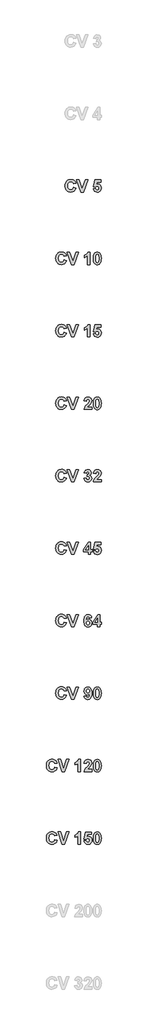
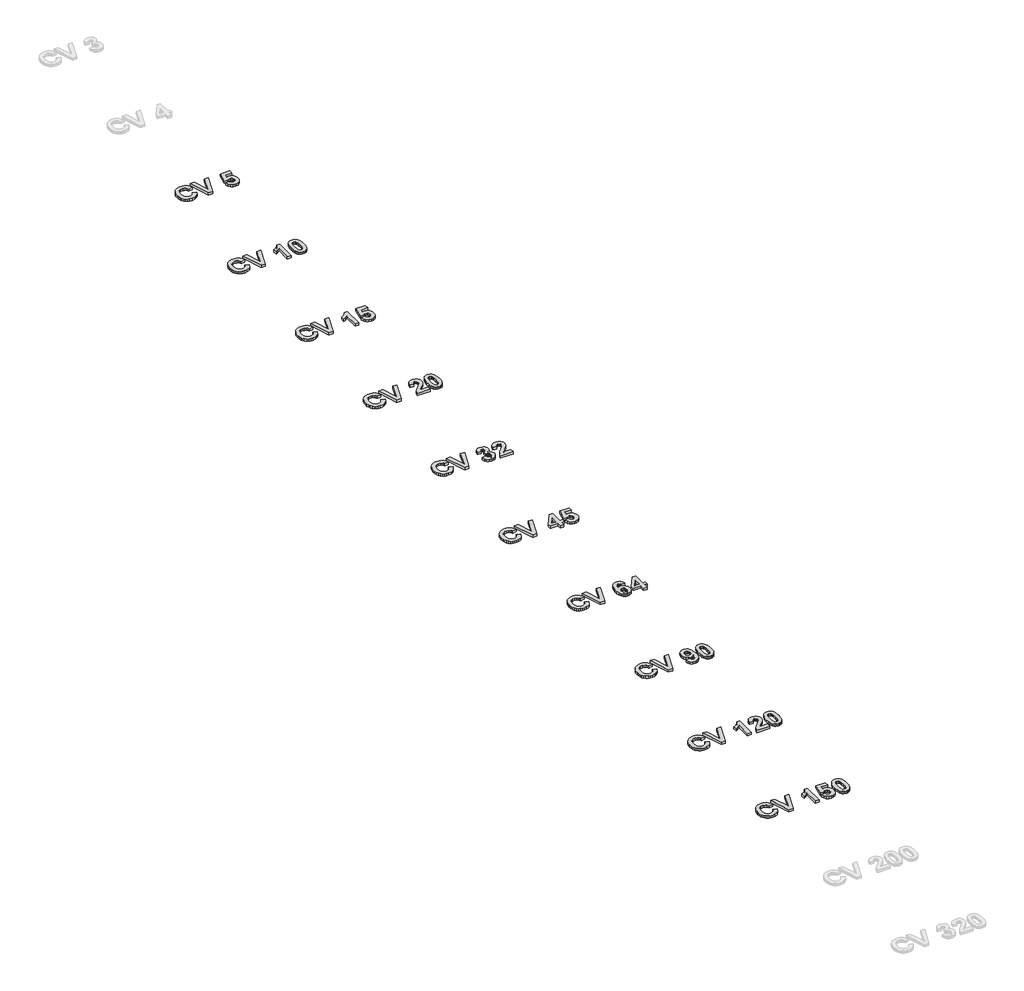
# One storey, part 8 of 9: 10 proxies.
"""IFC4 building model written with IfcOpenShell, lengths in millimetres."""

from ifc_helpers import new_model, si_unit, origin, origin_with_axes, place, context, project, spatial, polyline, outline, extrude, element, save

model = new_model("IFC4")

# Units and contexts
model_context = context("Model", 3, world=origin())
ifc_project = project(units=[si_unit("LENGTHUNIT", "METRE", prefix="MILLI")], contexts=[model_context])

# Site, building, storey
site = spatial("IfcSite", under=ifc_project)
building = spatial("IfcBuilding", under=site)
storey = spatial("IfcBuildingStorey", under=building, Name="Этаж 01", Elevation=0.0)

# Proxies
placement = place(None, origin())
element("IfcBuildingElementProxy", 1, Name="Wellmix_Надпись1", ObjectType="Wellmix_Надпись1", at=placement, inside=storey, context=model_context, shape_type="SweptSolid", body=[
    extrude(outline(polyline([(24277.5138433, 4493.3613491), (24326.0976243, 4477.1667554), (24310.7728574, 4441.3852436), (24300.2519068, 4427.4502227), (24287.8252448, 4416.1523586), (24257.4603817, 4401.18343), (24219.8838636, 4396.1937872), (24195.5563893, 4398.3248628), (24173.4983722, 4404.7180899), (24153.7098123, 4415.3734683), (24136.1907097, 4430.290998), (24121.8543824, 4448.9052917), (24111.6141486, 4470.6509619), (24105.4700083, 4495.5280086), (24103.4219616, 4523.5364318), (24105.4878003, 4553.0710056), (24111.6853163, 4579.1104572), (24122.0145096, 4601.6547866), (24136.4753803, 4620.7039937), (24154.3048529, 4635.8429339), (24174.7398523, 4646.6564626), (24197.7803783, 4653.1445798), (24223.4264309, 4655.3072856), (24245.8521475, 4653.5241406), (24266.0637595, 4648.1747057), (24284.0612669, 4639.258981), (24299.8446697, 4626.7769663), (24315.1694366, 4606.2648687), (24326.0976243, 4578.3829657), (24277.5138433, 4570.2856689), (24270.0728704, 4587.0891413), (24257.3654915, 4599.9230405), (24240.3722387, 4608.0598749), (24220.073644, 4610.772153), (24192.6266544, 4605.8457703), (24170.8888918, 4591.0666221), (24162.627514, 4579.6896828), (24156.7265298, 4565.264396), (24152.0057425, 4527.2687795), (24156.5841946, 4487.1934862), (24162.3072596, 4472.2087426), (24170.3195506, 4460.592601), (24191.3930819, 4445.69484), (24217.9860596, 4440.7289197), (24238.0632439, 4443.8998338), (24255.1513869, 4453.4125761), (24268.5388122, 4469.7415975), (24277.5138433, 4493.3613491)])), origin_with_axes(), (0.0, 0.0, 1.0), 30.0),
    extrude(outline(polyline([(24428.2627366, 4396.1937872), (24342.2922179, 4651.2586371), (24393.5329244, 4651.2586371), (24457.6786977, 4460.9721618), (24522.0142514, 4651.2586371), (24573.0651774, 4651.2586371), (24482.5399293, 4396.1937872), (24428.2627366, 4396.1937872)])), origin_with_axes(), (0.0, 0.0, 1.0), 30.0),
    extrude(outline(polyline([(24690.4759814, 4467.9940363), (24735.0111139, 4473.118107), (24739.1546526, 4458.0463807), (24747.4100997, 4446.4855917), (24758.5122528, 4439.1316014), (24771.1959091, 4436.6802713), (24785.3899011, 4439.2818442), (24797.2274532, 4447.0865629), (24805.2219523, 4460.1260575), (24807.8867854, 4478.431958), (24805.4117327, 4495.5912687), (24797.9865748, 4507.8479192), (24786.5918436, 4515.2019094), (24772.2080712, 4517.6532395), (24753.3881821, 4512.592429), (24736.6558774, 4497.4099975), (24694.5246298, 4503.6727505), (24722.8651687, 4647.2099887), (24844.3246211, 4647.2099887), (24844.3246211, 4598.6262078), (24762.1497103, 4598.6262078), (24752.34439, 4552.2565314), (24767.8273071, 4559.7054119), (24783.658155, 4562.1883721), (24811.7772835, 4556.4396076), (24835.2784223, 4539.1933143), (24851.1725303, 4512.7743019), (24856.4705663, 4479.5073803), (24852.0581722, 4450.5816852), (24838.8209896, 4424.9138868), (24825.6035759, 4410.5775595), (24810.0534449, 4400.3373258), (24792.1705965, 4394.1931855), (24771.9550307, 4392.1451387), (24740.9496588, 4397.2850244), (24716.254485, 4412.7046815), (24699.0398217, 4436.8067915), (24690.4759814, 4467.9940363)])), origin_with_axes(), (0.0, 0.0, 1.0), 30.0),
])
element("IfcBuildingElementProxy", 2, Name="Wellmix_Надпись1", ObjectType="Wellmix_Надпись1", at=placement, inside=storey, context=model_context, shape_type="SweptSolid", body=[
    extrude(outline(polyline([(24083.1787195, 2993.3613491), (24131.7625005, 2977.1667554), (24116.4377336, 2941.3852436), (24105.916783, 2927.4502227), (24093.490121, 2916.1523586), (24063.1252579, 2901.18343), (24025.5487398, 2896.1937872), (24001.2212655, 2898.3248628), (23979.1632484, 2904.7180899), (23959.3746885, 2915.3734683), (23941.8555859, 2930.290998), (23927.5192586, 2948.9052917), (23917.2790248, 2970.6509619), (23911.1348845, 2995.5280086), (23909.0868378, 3023.5364318), (23911.1526765, 3053.0710056), (23917.3501925, 3079.1104572), (23927.6793858, 3101.6547866), (23942.1402565, 3120.7039937), (23959.9697291, 3135.8429339), (23980.4047285, 3146.6564626), (24003.4452545, 3153.1445798), (24029.0913071, 3155.3072856), (24051.5170237, 3153.5241406), (24071.7286357, 3148.1747057), (24089.7261431, 3139.258981), (24105.5095459, 3126.7769663), (24120.8343128, 3106.2648687), (24131.7625005, 3078.3829657), (24083.1787195, 3070.2856689), (24075.7377466, 3087.0891413), (24063.0303677, 3099.9230405), (24046.0371149, 3108.0598749), (24025.7385202, 3110.772153), (23998.2915306, 3105.8457703), (23976.553768, 3091.0666221), (23968.2923902, 3079.6896828), (23962.391406, 3065.264396), (23957.6706187, 3027.2687795), (23962.2490708, 2987.1934862), (23967.9721358, 2972.2087426), (23975.9844268, 2960.592601), (23997.0579581, 2945.69484), (24023.6509358, 2940.7289197), (24043.7281201, 2943.8998338), (24060.8162631, 2953.4125761), (24074.2036884, 2969.7415975), (24083.1787195, 2993.3613491)])), origin_with_axes(), (0.0, 0.0, 1.0), 30.0),
    extrude(outline(polyline([(24233.9276128, 2896.1937872), (24147.9570941, 3151.2586371), (24199.1978006, 3151.2586371), (24263.3435739, 2960.9721618), (24327.6791276, 3151.2586371), (24378.7300536, 3151.2586371), (24288.2048055, 2896.1937872), (24233.9276128, 2896.1937872)])), origin_with_axes(), (0.0, 0.0, 1.0), 30.0),
    extrude(outline(polyline([(24617.60031, 2896.1937872), (24569.016529, 2896.1937872), (24569.016529, 3078.509486), (24540.9606607, 3054.6287864), (24508.2868028, 3037.8964816), (24508.2868028, 3086.4802625), (24527.7551083, 3095.5659989), (24548.8365471, 3110.297702), (24567.2926904, 3129.3152791), (24578.8851095, 3151.2586371), (24617.60031, 3151.2586371), (24617.60031, 2896.1937872)])), origin_with_axes(), (0.0, 0.0, 1.0), 30.0),
    extrude(outline(polyline([(24771.4489497, 3151.2586371), (24788.580584, 3149.6138737), (24803.7274317, 3144.6795835), (24816.8894928, 3136.4557664), (24828.0667673, 3124.9424225), (24838.7221457, 3106.814441), (24846.3331303, 3083.5544815), (24850.899721, 3055.1625437), (24852.4219179, 3021.6386278), (24850.8918135, 2988.146342), (24846.3015002, 2959.7227742), (24838.650978, 2936.3679244), (24827.940247, 2918.0817926), (24816.8183252, 2906.7345066), (24803.6958017, 2898.6293022), (24788.5726765, 2893.7661796), (24771.4489497, 2892.1451387), (24754.1413731, 2893.9243299), (24738.5932189, 2899.2619035), (24724.8044871, 2908.1578595), (24712.7751777, 2920.6121979), (24703.0192793, 2937.633127), (24696.0507805, 2960.2288552), (24691.8696812, 2988.3993825), (24690.4759814, 3022.1447089), (24692.0060858, 3055.4709369), (24696.5963991, 3083.7758919), (24704.2469213, 3107.0595741), (24714.9576523, 3125.3219833), (24726.0795741, 3136.6692693), (24739.2020977, 3144.7744737), (24754.3252228, 3149.6375963), (24771.4489497, 3151.2586371)]), holes=[polyline([(24771.4489497, 3106.7235046), (24755.254356, 3101.3780235), (24748.9283429, 3093.9054205), (24744.2470931, 3082.1785736), (24740.3565951, 3058.0290184), (24739.0597624, 3021.6386278), (24740.2142598, 2985.7305957), (24743.677752, 2963.1546363), (24748.9046203, 2949.9016388), (24755.3492462, 2941.9624923), (24771.4489497, 2936.6802713), (24787.6435433, 2942.0257524), (24793.9695565, 2949.4983554), (24798.6508062, 2961.2252023), (24802.5413043, 2985.2482372), (24803.838137, 3021.6386278), (24802.6836396, 3057.5071223), (24799.2201474, 3080.0909893), (24793.993279, 3093.3835244), (24787.5486531, 3101.3780235), (24771.4489497, 3106.7235046)])]), origin_with_axes(), (0.0, 0.0, 1.0), 30.0),
])
element("IfcBuildingElementProxy", 3, Name="Wellmix_Надпись1", ObjectType="Wellmix_Надпись1", at=placement, inside=storey, context=model_context, shape_type="SweptSolid", body=[
    extrude(outline(polyline([(24083.1787195, 1493.3613491), (24131.7625005, 1477.1667554), (24116.4377336, 1441.3852436), (24105.916783, 1427.4502227), (24093.490121, 1416.1523586), (24063.1252579, 1401.18343), (24025.5487398, 1396.1937872), (24001.2212655, 1398.3248628), (23979.1632484, 1404.7180899), (23959.3746885, 1415.3734683), (23941.8555859, 1430.290998), (23927.5192586, 1448.9052917), (23917.2790248, 1470.6509619), (23911.1348845, 1495.5280086), (23909.0868378, 1523.5364318), (23911.1526765, 1553.0710056), (23917.3501925, 1579.1104572), (23927.6793858, 1601.6547866), (23942.1402565, 1620.7039937), (23959.9697291, 1635.8429339), (23980.4047285, 1646.6564626), (24003.4452545, 1653.1445798), (24029.0913071, 1655.3072856), (24051.5170237, 1653.5241406), (24071.7286357, 1648.1747057), (24089.7261431, 1639.258981), (24105.5095459, 1626.7769663), (24120.8343128, 1606.2648687), (24131.7625005, 1578.3829657), (24083.1787195, 1570.2856689), (24075.7377466, 1587.0891413), (24063.0303677, 1599.9230405), (24046.0371149, 1608.0598749), (24025.7385202, 1610.772153), (23998.2915306, 1605.8457703), (23976.553768, 1591.0666221), (23968.2923902, 1579.6896828), (23962.391406, 1565.264396), (23957.6706187, 1527.2687795), (23962.2490708, 1487.1934862), (23967.9721358, 1472.2087426), (23975.9844268, 1460.592601), (23997.0579581, 1445.69484), (24023.6509358, 1440.7289197), (24043.7281201, 1443.8998338), (24060.8162631, 1453.4125761), (24074.2036884, 1469.7415975), (24083.1787195, 1493.3613491)])), origin_with_axes(), (0.0, 0.0, 1.0), 30.0),
    extrude(outline(polyline([(24233.9276128, 1396.1937872), (24147.9570941, 1651.2586371), (24199.1978006, 1651.2586371), (24263.3435739, 1460.9721618), (24327.6791276, 1651.2586371), (24378.7300536, 1651.2586371), (24288.2048055, 1396.1937872), (24233.9276128, 1396.1937872)])), origin_with_axes(), (0.0, 0.0, 1.0), 30.0),
    extrude(outline(polyline([(24617.60031, 1396.1937872), (24569.016529, 1396.1937872), (24569.016529, 1578.509486), (24540.9606607, 1554.6287864), (24508.2868028, 1537.8964816), (24508.2868028, 1586.4802625), (24527.7551083, 1595.5659989), (24548.8365471, 1610.297702), (24567.2926904, 1629.3152791), (24578.8851095, 1651.2586371), (24617.60031, 1651.2586371), (24617.60031, 1396.1937872)])), origin_with_axes(), (0.0, 0.0, 1.0), 30.0),
    extrude(outline(polyline([(24690.4759814, 1467.9940363), (24735.0111139, 1473.118107), (24739.1546526, 1458.0463807), (24747.4100997, 1446.4855917), (24758.5122528, 1439.1316014), (24771.1959091, 1436.6802713), (24785.3899011, 1439.2818442), (24797.2274532, 1447.0865629), (24805.2219523, 1460.1260575), (24807.8867854, 1478.431958), (24805.4117327, 1495.5912687), (24797.9865748, 1507.8479192), (24786.5918436, 1515.2019094), (24772.2080712, 1517.6532395), (24753.3881821, 1512.592429), (24736.6558774, 1497.4099975), (24694.5246298, 1503.6727505), (24722.8651687, 1647.2099887), (24844.3246211, 1647.2099887), (24844.3246211, 1598.6262078), (24762.1497103, 1598.6262078), (24752.34439, 1552.2565314), (24767.8273071, 1559.7054119), (24783.658155, 1562.1883721), (24811.7772835, 1556.4396076), (24835.2784223, 1539.1933143), (24851.1725303, 1512.7743019), (24856.4705663, 1479.5073803), (24852.0581722, 1450.5816852), (24838.8209896, 1424.9138868), (24825.6035759, 1410.5775595), (24810.0534449, 1400.3373258), (24792.1705965, 1394.1931855), (24771.9550307, 1392.1451387), (24740.9496588, 1397.2850244), (24716.254485, 1412.7046815), (24699.0398217, 1436.8067915), (24690.4759814, 1467.9940363)])), origin_with_axes(), (0.0, 0.0, 1.0), 30.0),
])
element("IfcBuildingElementProxy", 4, Name="Wellmix_Надпись1", ObjectType="Wellmix_Надпись1", at=placement, inside=storey, context=model_context, shape_type="SweptSolid", body=[
    extrude(outline(polyline([(24083.1787195, -6.6386509), (24131.7625005, -22.8332446), (24116.4377336, -58.6147564), (24105.916783, -72.5497773), (24093.490121, -83.8476414), (24063.1252579, -98.81657), (24025.5487398, -103.8062128), (24001.2212655, -101.6751372), (23979.1632484, -95.2819101), (23959.3746885, -84.6265317), (23941.8555859, -69.709002), (23927.5192586, -51.0947083), (23917.2790248, -29.3490381), (23911.1348845, -4.4719914), (23909.0868378, 23.5364318), (23911.1526765, 53.0710056), (23917.3501925, 79.1104572), (23927.6793858, 101.6547866), (23942.1402565, 120.7039937), (23959.9697291, 135.8429339), (23980.4047285, 146.6564626), (24003.4452545, 153.1445798), (24029.0913071, 155.3072856), (24051.5170237, 153.5241406), (24071.7286357, 148.1747057), (24089.7261431, 139.258981), (24105.5095459, 126.7769663), (24120.8343128, 106.2648687), (24131.7625005, 78.3829657), (24083.1787195, 70.2856689), (24075.7377466, 87.0891413), (24063.0303677, 99.9230405), (24046.0371149, 108.0598749), (24025.7385202, 110.772153), (23998.2915306, 105.8457703), (23976.553768, 91.0666221), (23968.2923902, 79.6896828), (23962.391406, 65.264396), (23957.6706187, 27.2687795), (23962.2490708, -12.8065138), (23967.9721358, -27.7912574), (23975.9844268, -39.407399), (23997.0579581, -54.30516), (24023.6509358, -59.2710803), (24043.7281201, -56.1001662), (24060.8162631, -46.5874239), (24074.2036884, -30.2584025), (24083.1787195, -6.6386509)])), origin_with_axes(), (0.0, 0.0, 1.0), 30.0),
    extrude(outline(polyline([(24233.9276128, -103.8062128), (24147.9570941, 151.2586371), (24199.1978006, 151.2586371), (24263.3435739, -39.0278382), (24327.6791276, 151.2586371), (24378.7300536, 151.2586371), (24288.2048055, -103.8062128), (24233.9276128, -103.8062128)])), origin_with_axes(), (0.0, 0.0, 1.0), 30.0),
    extrude(outline(polyline([(24658.0867941, -55.2224319), (24658.0867941, -103.8062128), (24496.1408576, -103.8062128), (24501.3123734, -79.3008194), (24511.6395898, -56.1397038), (24530.8232247, -29.9579169), (24562.5639956, 3.6094904), (24600.1405137, 44.349015), (24607.1623883, 59.0569956), (24609.5030132, 73.5751957), (24607.5340416, 87.7217426), (24601.6271268, 98.1517568), (24592.2567198, 104.5805677), (24579.8972716, 106.7235046), (24567.6248061, 104.6121977), (24558.1357864, 98.2782771), (24551.7465131, 87.0575112), (24548.773287, 70.2856689), (24500.189506, 74.7138781), (24508.7928839, 109.8627886), (24516.4157297, 123.101948), (24526.2526802, 133.4509101), (24550.8766863, 146.8067054), (24580.9726939, 151.2586371), (24613.1088406, 146.2689943), (24637.5272514, 131.3000657), (24652.9469084, 108.9138867), (24658.0867941, 81.6724926), (24652.4566424, 49.5363458), (24634.6172853, 17.5899794), (24604.4105726, -14.2931268), (24576.6710049, -41.9378043), (24567.561546, -55.2224319), (24658.0867941, -55.2224319)])), origin_with_axes(), (0.0, 0.0, 1.0), 30.0),
    extrude(outline(polyline([(24771.4489497, 151.2586371), (24788.580584, 149.6138737), (24803.7274317, 144.6795835), (24816.8894928, 136.4557664), (24828.0667673, 124.9424225), (24838.7221457, 106.814441), (24846.3331303, 83.5544815), (24850.899721, 55.1625437), (24852.4219179, 21.6386278), (24850.8918135, -11.853658), (24846.3015002, -40.2772258), (24838.650978, -63.6320756), (24827.940247, -81.9182074), (24816.8183252, -93.2654934), (24803.6958017, -101.3706978), (24788.5726765, -106.2338204), (24771.4489497, -107.8548613), (24754.1413731, -106.0756701), (24738.5932189, -100.7380965), (24724.8044871, -91.8421405), (24712.7751777, -79.3878021), (24703.0192793, -62.366873), (24696.0507805, -39.7711448), (24691.8696812, -11.6006175), (24690.4759814, 22.1447089), (24692.0060858, 55.4709369), (24696.5963991, 83.7758919), (24704.2469213, 107.0595741), (24714.9576523, 125.3219833), (24726.0795741, 136.6692693), (24739.2020977, 144.7744737), (24754.3252228, 149.6375963), (24771.4489497, 151.2586371)]), holes=[polyline([(24771.4489497, 106.7235046), (24755.254356, 101.3780235), (24748.9283429, 93.9054205), (24744.2470931, 82.1785736), (24740.3565951, 58.0290184), (24739.0597624, 21.6386278), (24740.2142598, -14.2694043), (24743.677752, -36.8453637), (24748.9046203, -50.0983612), (24755.3492462, -58.0375077), (24771.4489497, -63.3197287), (24787.6435433, -57.9742476), (24793.9695565, -50.5016446), (24798.6508062, -38.7747977), (24802.5413043, -14.7517628), (24803.838137, 21.6386278), (24802.6836396, 57.5071223), (24799.2201474, 80.0909893), (24793.993279, 93.3835244), (24787.5486531, 101.3780235), (24771.4489497, 106.7235046)])]), origin_with_axes(), (0.0, 0.0, 1.0), 30.0),
])
element("IfcBuildingElementProxy", 5, Name="Wellmix_Надпись1", ObjectType="Wellmix_Надпись1", at=placement, inside=storey, context=model_context, shape_type="SweptSolid", body=[
    extrude(outline(polyline([(24083.1787195, -1506.6386509), (24131.7625005, -1522.8332446), (24116.4377336, -1558.6147564), (24105.916783, -1572.5497773), (24093.490121, -1583.8476414), (24063.1252579, -1598.81657), (24025.5487398, -1603.8062128), (24001.2212655, -1601.6751372), (23979.1632484, -1595.2819101), (23959.3746885, -1584.6265317), (23941.8555859, -1569.709002), (23927.5192586, -1551.0947083), (23917.2790248, -1529.3490381), (23911.1348845, -1504.4719914), (23909.0868378, -1476.4635682), (23911.1526765, -1446.9289944), (23917.3501925, -1420.8895428), (23927.6793858, -1398.3452134), (23942.1402565, -1379.2960063), (23959.9697291, -1364.1570661), (23980.4047285, -1353.3435374), (24003.4452545, -1346.8554202), (24029.0913071, -1344.6927144), (24051.5170237, -1346.4758594), (24071.7286357, -1351.8252943), (24089.7261431, -1360.741019), (24105.5095459, -1373.2230337), (24120.8343128, -1393.7351313), (24131.7625005, -1421.6170343), (24083.1787195, -1429.7143311), (24075.7377466, -1412.9108587), (24063.0303677, -1400.0769595), (24046.0371149, -1391.9401251), (24025.7385202, -1389.227847), (23998.2915306, -1394.1542297), (23976.553768, -1408.9333779), (23968.2923902, -1420.3103172), (23962.391406, -1434.735604), (23957.6706187, -1472.7312205), (23962.2490708, -1512.8065138), (23967.9721358, -1527.7912574), (23975.9844268, -1539.407399), (23997.0579581, -1554.30516), (24023.6509358, -1559.2710803), (24043.7281201, -1556.1001662), (24060.8162631, -1546.5874239), (24074.2036884, -1530.2584025), (24083.1787195, -1506.6386509)])), origin_with_axes(), (0.0, 0.0, 1.0), 30.0),
    extrude(outline(polyline([(24233.9276128, -1603.8062128), (24147.9570941, -1348.7413629), (24199.1978006, -1348.7413629), (24263.3435739, -1539.0278382), (24327.6791276, -1348.7413629), (24378.7300536, -1348.7413629), (24288.2048055, -1603.8062128), (24233.9276128, -1603.8062128)])), origin_with_axes(), (0.0, 0.0, 1.0), 30.0),
    extrude(outline(polyline([(24496.1408576, -1532.5120447), (24544.7246386, -1526.881893), (24548.4728013, -1542.5071455), (24555.6686413, -1553.9572293), (24565.5214068, -1560.9791039), (24577.2403461, -1563.3197287), (24589.8132972, -1560.6390806), (24600.2037738, -1552.5971364), (24607.1782033, -1540.0162778), (24609.5030132, -1523.7188864), (24607.3758912, -1508.2992294), (24600.9945255, -1496.4537698), (24591.5450433, -1488.9099991), (24580.2135723, -1486.3954089), (24560.9192322, -1490.0012364), (24565.157661, -1449.9575732), (24578.9879072, -1448.2179196), (24589.1016208, -1441.9867966), (24595.2932061, -1432.1182161), (24597.3570679, -1419.4661898), (24595.8151022, -1408.719875), (24591.1892051, -1400.3932602), (24584.0012727, -1395.0556866), (24574.773201, -1393.2764954), (24565.386979, -1395.3403572), (24557.471555, -1401.5319425), (24551.7069756, -1411.6931012), (24548.773287, -1425.6656827), (24500.189506, -1418.3907676), (24505.7484901, -1396.6530049), (24513.5690238, -1379.7704573), (24524.2916161, -1366.857483), (24538.5567757, -1357.0284401), (24555.5500285, -1350.8131322), (24574.4569003, -1348.7413629), (24605.106434, -1354.4822198), (24617.8928881, -1361.6582909), (24628.9871336, -1371.7047906), (24641.7024201, -1391.7266222), (24645.9408489, -1414.2155989), (24643.6674379, -1430.1611058), (24636.847205, -1444.4064966), (24625.4801501, -1456.9517714), (24609.5662733, -1467.7969302), (24629.4299546, -1475.3486084), (24644.8654266, -1488.6411435), (24654.7814522, -1506.5042232), (24658.0867941, -1527.7675348), (24652.2273244, -1558.5356813), (24634.6489154, -1584.4169826), (24622.2123689, -1594.6710545), (24608.3406082, -1601.9953916), (24576.2914441, -1607.8548613), (24546.0293788, -1602.6438079), (24521.4132801, -1587.0106479), (24504.1986168, -1562.9638905), (24496.1408576, -1532.5120447)])), origin_with_axes(), (0.0, 0.0, 1.0), 30.0),
    extrude(outline(polyline([(24852.4219179, -1555.2224319), (24852.4219179, -1603.8062128), (24690.4759814, -1603.8062128), (24695.6474972, -1579.3008194), (24705.9747136, -1556.1397038), (24725.1583485, -1529.9579169), (24756.8991194, -1496.3905096), (24794.4756375, -1455.650985), (24801.4975121, -1440.9430044), (24803.838137, -1426.4248043), (24801.8691654, -1412.2782574), (24795.9622506, -1401.8482432), (24786.5918436, -1395.4194323), (24774.2323954, -1393.2764954), (24761.9599299, -1395.3878023), (24752.4709102, -1401.7217229), (24746.0816369, -1412.9424888), (24743.1084108, -1429.7143311), (24694.5246298, -1425.2861219), (24703.1280077, -1390.1372114), (24710.7508535, -1376.898052), (24720.587804, -1366.5490899), (24745.2118101, -1353.1932946), (24775.3078177, -1348.7413629), (24807.4439644, -1353.7310057), (24831.8623752, -1368.6999343), (24847.2820322, -1391.0861133), (24852.4219179, -1418.3275074), (24846.7917662, -1450.4636542), (24828.9524091, -1482.4100206), (24798.7456964, -1514.2931268), (24771.0061287, -1541.9378043), (24761.8966698, -1555.2224319), (24852.4219179, -1555.2224319)])), origin_with_axes(), (0.0, 0.0, 1.0), 30.0),
])
element("IfcBuildingElementProxy", 6, Name="Wellmix_Надпись1", ObjectType="Wellmix_Надпись1", at=placement, inside=storey, context=model_context, shape_type="SweptSolid", body=[
    extrude(outline(polyline([(24083.1787195, -3006.6386509), (24131.7625005, -3022.8332446), (24116.4377336, -3058.6147564), (24105.916783, -3072.5497773), (24093.490121, -3083.8476414), (24063.1252579, -3098.81657), (24025.5487398, -3103.8062128), (24001.2212655, -3101.6751372), (23979.1632484, -3095.2819101), (23959.3746885, -3084.6265317), (23941.8555859, -3069.709002), (23927.5192586, -3051.0947083), (23917.2790248, -3029.3490381), (23911.1348845, -3004.4719914), (23909.0868378, -2976.4635682), (23911.1526765, -2946.9289944), (23917.3501925, -2920.8895428), (23927.6793858, -2898.3452134), (23942.1402565, -2879.2960063), (23959.9697291, -2864.1570661), (23980.4047285, -2853.3435374), (24003.4452545, -2846.8554202), (24029.0913071, -2844.6927144), (24051.5170237, -2846.4758594), (24071.7286357, -2851.8252943), (24089.7261431, -2860.741019), (24105.5095459, -2873.2230337), (24120.8343128, -2893.7351313), (24131.7625005, -2921.6170343), (24083.1787195, -2929.7143311), (24075.7377466, -2912.9108587), (24063.0303677, -2900.0769595), (24046.0371149, -2891.9401251), (24025.7385202, -2889.227847), (23998.2915306, -2894.1542297), (23976.553768, -2908.9333779), (23968.2923902, -2920.3103172), (23962.391406, -2934.735604), (23957.6706187, -2972.7312205), (23962.2490708, -3012.8065138), (23967.9721358, -3027.7912574), (23975.9844268, -3039.407399), (23997.0579581, -3054.30516), (24023.6509358, -3059.2710803), (24043.7281201, -3056.1001662), (24060.8162631, -3046.5874239), (24074.2036884, -3030.2584025), (24083.1787195, -3006.6386509)])), origin_with_axes(), (0.0, 0.0, 1.0), 30.0),
    extrude(outline(polyline([(24233.9276128, -3103.8062128), (24147.9570941, -2848.7413629), (24199.1978006, -2848.7413629), (24263.3435739, -3039.0278382), (24327.6791276, -2848.7413629), (24378.7300536, -2848.7413629), (24288.2048055, -3103.8062128), (24233.9276128, -3103.8062128)])), origin_with_axes(), (0.0, 0.0, 1.0), 30.0),
    extrude(outline(polyline([(24585.2111227, -3103.8062128), (24585.2111227, -3051.1737835), (24488.0435608, -3051.1737835), (24488.0435608, -3010.8770797), (24591.6636561, -2852.7900113), (24633.7949036, -2852.7900113), (24633.7949036, -3010.6872994), (24666.1840909, -3010.6872994), (24666.1840909, -3051.1737835), (24633.7949036, -3051.1737835), (24633.7949036, -3103.8062128), (24585.2111227, -3103.8062128)]), holes=[polyline([(24585.2111227, -3010.6872994), (24585.2111227, -2927.8165272), (24530.9339299, -3010.6872994), (24585.2111227, -3010.6872994)])]), origin_with_axes(), (0.0, 0.0, 1.0), 30.0),
    extrude(outline(polyline([(24690.4759814, -3032.0059637), (24735.0111139, -3026.881893), (24739.1546526, -3041.9536193), (24747.4100997, -3053.5144083), (24758.5122528, -3060.8683986), (24771.1959091, -3063.3197287), (24785.3899011, -3060.7181558), (24797.2274532, -3052.9134371), (24805.2219523, -3039.8739425), (24807.8867854, -3021.568042), (24805.4117327, -3004.4087313), (24797.9865748, -2992.1520808), (24786.5918436, -2984.7980906), (24772.2080712, -2982.3467605), (24753.3881821, -2987.407571), (24736.6558774, -3002.5900025), (24694.5246298, -2996.3272495), (24722.8651687, -2852.7900113), (24844.3246211, -2852.7900113), (24844.3246211, -2901.3737922), (24762.1497103, -2901.3737922), (24752.34439, -2947.7434686), (24767.8273071, -2940.2945881), (24783.658155, -2937.8116279), (24811.7772835, -2943.5603924), (24835.2784223, -2960.8066857), (24851.1725303, -2987.2256981), (24856.4705663, -3020.4926197), (24852.0581722, -3049.4183148), (24838.8209896, -3075.0861132), (24825.6035759, -3089.4224405), (24810.0534449, -3099.6626742), (24792.1705965, -3105.8068145), (24771.9550307, -3107.8548613), (24740.9496588, -3102.7149756), (24716.254485, -3087.2953185), (24699.0398217, -3063.1932085), (24690.4759814, -3032.0059637)])), origin_with_axes(), (0.0, 0.0, 1.0), 30.0),
])
element("IfcBuildingElementProxy", 7, Name="Wellmix_Надпись1", ObjectType="Wellmix_Надпись1", at=placement, inside=storey, context=model_context, shape_type="SweptSolid", body=[
    extrude(outline(polyline([(24083.1787195, -4506.6386509), (24131.7625005, -4522.8332446), (24116.4377336, -4558.6147564), (24105.916783, -4572.5497773), (24093.490121, -4583.8476414), (24063.1252579, -4598.81657), (24025.5487398, -4603.8062128), (24001.2212655, -4601.6751372), (23979.1632484, -4595.2819101), (23959.3746885, -4584.6265317), (23941.8555859, -4569.709002), (23927.5192586, -4551.0947083), (23917.2790248, -4529.3490381), (23911.1348845, -4504.4719914), (23909.0868378, -4476.4635682), (23911.1526765, -4446.9289944), (23917.3501925, -4420.8895428), (23927.6793858, -4398.3452134), (23942.1402565, -4379.2960063), (23959.9697291, -4364.1570661), (23980.4047285, -4353.3435374), (24003.4452545, -4346.8554202), (24029.0913071, -4344.6927144), (24051.5170237, -4346.4758594), (24071.7286357, -4351.8252943), (24089.7261431, -4360.741019), (24105.5095459, -4373.2230337), (24120.8343128, -4393.7351313), (24131.7625005, -4421.6170343), (24083.1787195, -4429.7143311), (24075.7377466, -4412.9108587), (24063.0303677, -4400.0769595), (24046.0371149, -4391.9401251), (24025.7385202, -4389.227847), (23998.2915306, -4394.1542297), (23976.553768, -4408.9333779), (23968.2923902, -4420.3103172), (23962.391406, -4434.735604), (23957.6706187, -4472.7312205), (23962.2490708, -4512.8065138), (23967.9721358, -4527.7912574), (23975.9844268, -4539.407399), (23997.0579581, -4554.30516), (24023.6509358, -4559.2710803), (24043.7281201, -4556.1001662), (24060.8162631, -4546.5874239), (24074.2036884, -4530.2584025), (24083.1787195, -4506.6386509)])), origin_with_axes(), (0.0, 0.0, 1.0), 30.0),
    extrude(outline(polyline([(24233.9276128, -4603.8062128), (24147.9570941, -4348.7413629), (24199.1978006, -4348.7413629), (24263.3435739, -4539.0278382), (24327.6791276, -4348.7413629), (24378.7300536, -4348.7413629), (24288.2048055, -4603.8062128), (24233.9276128, -4603.8062128)])), origin_with_axes(), (0.0, 0.0, 1.0), 30.0),
    extrude(outline(polyline([(24654.0381457, -4416.4297035), (24605.4543647, -4421.6170343), (24602.4811386, -4409.0203606), (24596.8509869, -4400.2034798), (24588.8485802, -4395.0082415), (24578.7585893, -4393.2764954), (24565.157661, -4396.6371899), (24553.8340975, -4406.7192733), (24545.5312052, -4427.5555791), (24540.9922908, -4463.1789406), (24561.0141224, -4447.1899424), (24585.4009031, -4441.8602763), (24613.2274534, -4447.5536882), (24636.7364997, -4464.6339237), (24652.7492205, -4490.7129129), (24658.0867941, -4523.4025858), (24652.6306078, -4557.8398198), (24645.8103748, -4572.2295229), (24636.2620488, -4584.7332832), (24624.5707857, -4594.8489736), (24611.3217419, -4602.0744667), (24580.1503122, -4607.8548613), (24562.6193482, -4605.9886874), (24546.7173327, -4600.3901657), (24532.4442655, -4591.0592964), (24519.8001468, -4577.9960792), (24509.4492078, -4560.682572), (24502.0556799, -4538.6008324), (24497.6195632, -4511.7508603), (24496.1408576, -4480.1326559), (24497.6848002, -4447.6802084), (24502.3166279, -4420.0987911), (24510.0363409, -4397.3884039), (24520.8439389, -4379.5490469), (24534.1186821, -4366.0706851), (24549.2398304, -4356.4432839), (24566.2073838, -4350.6668431), (24585.0213423, -4348.7413629), (24610.3412099, -4353.0746819), (24630.8849376, -4366.0746389), (24645.7510685, -4387.330043), (24654.0381457, -4416.4297035)]), holes=[polyline([(24544.7246386, -4522.3271635), (24547.349934, -4539.7474222), (24555.2258204, -4552.6603966), (24566.4703087, -4560.6548957), (24579.2014102, -4563.3197287), (24591.0943149, -4561.1372542), (24600.8363751, -4554.5898306), (24607.3363537, -4543.0606716), (24609.5030132, -4525.932991), (24607.1702958, -4508.1806166), (24600.1721438, -4495.9160587), (24589.6788695, -4488.7755713), (24576.8607853, -4486.3954089), (24564.422262, -4488.6727736), (24554.0555079, -4495.5048678), (24547.0573559, -4506.7651712), (24544.7246386, -4522.3271635)])]), origin_with_axes(), (0.0, 0.0, 1.0), 30.0),
    extrude(outline(polyline([(24779.5462465, -4603.8062128), (24779.5462465, -4551.1737835), (24682.3786846, -4551.1737835), (24682.3786846, -4510.8770797), (24785.9987799, -4352.7900113), (24828.1300274, -4352.7900113), (24828.1300274, -4510.6872994), (24860.5192147, -4510.6872994), (24860.5192147, -4551.1737835), (24828.1300274, -4551.1737835), (24828.1300274, -4603.8062128), (24779.5462465, -4603.8062128)]), holes=[polyline([(24779.5462465, -4510.6872994), (24779.5462465, -4427.8165272), (24725.2690537, -4510.6872994), (24779.5462465, -4510.6872994)])]), origin_with_axes(), (0.0, 0.0, 1.0), 30.0),
])
element("IfcBuildingElementProxy", 8, Name="Wellmix_Надпись1", ObjectType="Wellmix_Надпись1", at=placement, inside=storey, context=model_context, shape_type="SweptSolid", body=[
    extrude(outline(polyline([(24083.1787195, -6006.6386509), (24131.7625005, -6022.8332446), (24116.4377336, -6058.6147564), (24105.916783, -6072.5497773), (24093.490121, -6083.8476414), (24063.1252579, -6098.81657), (24025.5487398, -6103.8062128), (24001.2212655, -6101.6751372), (23979.1632484, -6095.2819101), (23959.3746885, -6084.6265317), (23941.8555859, -6069.709002), (23927.5192586, -6051.0947083), (23917.2790248, -6029.3490381), (23911.1348845, -6004.4719914), (23909.0868378, -5976.4635682), (23911.1526765, -5946.9289944), (23917.3501925, -5920.8895428), (23927.6793858, -5898.3452134), (23942.1402565, -5879.2960063), (23959.9697291, -5864.1570661), (23980.4047285, -5853.3435374), (24003.4452545, -5846.8554202), (24029.0913071, -5844.6927144), (24051.5170237, -5846.4758594), (24071.7286357, -5851.8252943), (24089.7261431, -5860.741019), (24105.5095459, -5873.2230337), (24120.8343128, -5893.7351313), (24131.7625005, -5921.6170343), (24083.1787195, -5929.7143311), (24075.7377466, -5912.9108587), (24063.0303677, -5900.0769595), (24046.0371149, -5891.9401251), (24025.7385202, -5889.227847), (23998.2915306, -5894.1542297), (23976.553768, -5908.9333779), (23968.2923902, -5920.3103172), (23962.391406, -5934.735604), (23957.6706187, -5972.7312205), (23962.2490708, -6012.8065138), (23967.9721358, -6027.7912574), (23975.9844268, -6039.407399), (23997.0579581, -6054.30516), (24023.6509358, -6059.2710803), (24043.7281201, -6056.1001662), (24060.8162631, -6046.5874239), (24074.2036884, -6030.2584025), (24083.1787195, -6006.6386509)])), origin_with_axes(), (0.0, 0.0, 1.0), 30.0),
    extrude(outline(polyline([(24233.9276128, -6103.8062128), (24147.9570941, -5848.7413629), (24199.1978006, -5848.7413629), (24263.3435739, -6039.0278382), (24327.6791276, -5848.7413629), (24378.7300536, -5848.7413629), (24288.2048055, -6103.8062128), (24233.9276128, -6103.8062128)])), origin_with_axes(), (0.0, 0.0, 1.0), 30.0),
    extrude(outline(polyline([(24500.189506, -6040.1665206), (24548.773287, -6034.9791898), (24551.7544207, -6047.5363259), (24557.4082949, -6056.3611143), (24565.5134993, -6061.5800751), (24575.8486232, -6063.3197287), (24589.196511, -6059.9590342), (24600.3935542, -6049.8769508), (24608.6964465, -6029.0880901), (24613.3618812, -5993.6070639), (24593.071194, -6009.4537268), (24568.2574075, -6014.7359478), (24540.857863, -6009.0662585), (24517.491152, -5992.0571906), (24501.4784312, -5965.9544789), (24496.1408576, -5933.0038579), (24501.6207665, -5898.7880343), (24508.4706526, -5884.4378689), (24518.0604932, -5871.926201), (24529.7695481, -5861.7828343), (24542.9770774, -5854.5375724), (24573.8875592, -5848.7413629), (24591.501552, -5850.6055599), (24607.4628739, -5856.1981508), (24621.7715249, -5865.5191358), (24634.4275049, -5878.5685148), (24644.778444, -5895.8879527), (24652.1719718, -5918.0191143), (24656.6080885, -5944.9619997), (24658.0867941, -5976.7166088), (24656.5408746, -6009.0840504), (24651.9031163, -6036.6002307), (24644.1735189, -6059.2651497), (24633.3520827, -6077.0788073), (24620.0516401, -6090.5433309), (24604.8850236, -6100.1608478), (24587.8522332, -6105.9313579), (24568.9532689, -6107.8548613), (24543.1115052, -6103.6164324), (24522.7733729, -6090.901146), (24508.3342479, -6069.7406321), (24500.189506, -6040.1665206)]), holes=[polyline([(24609.5030132, -5934.1425403), (24606.8935327, -5916.896247), (24599.0650915, -5903.9990877), (24587.8206031, -5895.9571435), (24574.9629814, -5893.2764954), (24563.0384466, -5895.474785), (24553.3280164, -5902.0696537), (24546.875483, -5913.6620727), (24544.7246386, -5930.8530135), (24547.0652634, -5948.4630526), (24554.087138, -5960.6801654), (24564.6041349, -5967.8206528), (24577.4301265, -5970.2008152), (24589.9002799, -5967.915543), (24600.2354039, -5961.0597262), (24607.1861108, -5949.7598853), (24609.5030132, -5934.1425403)])]), origin_with_axes(), (0.0, 0.0, 1.0), 30.0),
    extrude(outline(polyline([(24771.4489497, -5848.7413629), (24788.580584, -5850.3861263), (24803.7274317, -5855.3204165), (24816.8894928, -5863.5442336), (24828.0667673, -5875.0575775), (24838.7221457, -5893.185559), (24846.3331303, -5916.4455185), (24850.899721, -5944.8374563), (24852.4219179, -5978.3613722), (24850.8918135, -6011.853658), (24846.3015002, -6040.2772258), (24838.650978, -6063.6320756), (24827.940247, -6081.9182074), (24816.8183252, -6093.2654934), (24803.6958017, -6101.3706978), (24788.5726765, -6106.2338204), (24771.4489497, -6107.8548613), (24754.1413731, -6106.0756701), (24738.5932189, -6100.7380965), (24724.8044871, -6091.8421405), (24712.7751777, -6079.3878021), (24703.0192793, -6062.366873), (24696.0507805, -6039.7711448), (24691.8696812, -6011.6006175), (24690.4759814, -5977.8552911), (24692.0060858, -5944.5290631), (24696.5963991, -5916.2241081), (24704.2469213, -5892.9404259), (24714.9576523, -5874.6780167), (24726.0795741, -5863.3307307), (24739.2020977, -5855.2255263), (24754.3252228, -5850.3624037), (24771.4489497, -5848.7413629)]), holes=[polyline([(24771.4489497, -5893.2764954), (24755.254356, -5898.6219765), (24748.9283429, -5906.0945795), (24744.2470931, -5917.8214264), (24740.3565951, -5941.9709816), (24739.0597624, -5978.3613722), (24740.2142598, -6014.2694043), (24743.677752, -6036.8453637), (24748.9046203, -6050.0983612), (24755.3492462, -6058.0375077), (24771.4489497, -6063.3197287), (24787.6435433, -6057.9742476), (24793.9695565, -6050.5016446), (24798.6508062, -6038.7747977), (24802.5413043, -6014.7517628), (24803.838137, -5978.3613722), (24802.6836396, -5942.4928777), (24799.2201474, -5919.9090107), (24793.993279, -5906.6164756), (24787.5486531, -5898.6219765), (24771.4489497, -5893.2764954)])]), origin_with_axes(), (0.0, 0.0, 1.0), 30.0),
])
element("IfcBuildingElementProxy", 9, Name="Wellmix_Надпись1", ObjectType="Wellmix_Надпись1", at=placement, inside=storey, context=model_context, shape_type="SweptSolid", body=[
    extrude(outline(polyline([(23888.8435957, -7506.6386509), (23937.4273767, -7522.8332446), (23922.1026098, -7558.6147564), (23911.5816592, -7572.5497773), (23899.1549972, -7583.8476414), (23868.7901341, -7598.81657), (23831.213616, -7603.8062128), (23806.8861417, -7601.6751372), (23784.8281246, -7595.2819101), (23765.0395647, -7584.6265317), (23747.5204621, -7569.709002), (23733.1841348, -7551.0947083), (23722.943901, -7529.3490381), (23716.7997607, -7504.4719914), (23714.751714, -7476.4635682), (23716.8175527, -7446.9289944), (23723.0150687, -7420.8895428), (23733.344262, -7398.3452134), (23747.8051327, -7379.2960063), (23765.6346053, -7364.1570661), (23786.0696047, -7353.3435374), (23809.1101307, -7346.8554202), (23834.7561833, -7344.6927144), (23857.1818999, -7346.4758594), (23877.3935119, -7351.8252943), (23895.3910193, -7360.741019), (23911.1744221, -7373.2230337), (23926.499189, -7393.7351313), (23937.4273767, -7421.6170343), (23888.8435957, -7429.7143311), (23881.4026228, -7412.9108587), (23868.6952439, -7400.0769595), (23851.7019911, -7391.9401251), (23831.4033964, -7389.227847), (23803.9564068, -7394.1542297), (23782.2186442, -7408.9333779), (23773.9572664, -7420.3103172), (23768.0562822, -7434.735604), (23763.3354949, -7472.7312205), (23767.913947, -7512.8065138), (23773.637012, -7527.7912574), (23781.649303, -7539.407399), (23802.7228343, -7554.30516), (23829.315812, -7559.2710803), (23849.3929963, -7556.1001662), (23866.4811393, -7546.5874239), (23879.8685646, -7530.2584025), (23888.8435957, -7506.6386509)])), origin_with_axes(), (0.0, 0.0, 1.0), 30.0),
    extrude(outline(polyline([(24039.592489, -7603.8062128), (23953.6219703, -7348.7413629), (24004.8626768, -7348.7413629), (24069.0084501, -7539.0278382), (24133.3440038, -7348.7413629), (24184.3949298, -7348.7413629), (24093.8696817, -7603.8062128), (24039.592489, -7603.8062128)])), origin_with_axes(), (0.0, 0.0, 1.0), 30.0),
    extrude(outline(polyline([(24423.2651862, -7603.8062128), (24374.6814052, -7603.8062128), (24374.6814052, -7421.490514), (24346.6255369, -7445.3712136), (24313.951679, -7462.1035184), (24313.951679, -7413.5197375), (24333.4199845, -7404.4340011), (24354.5014233, -7389.702298), (24372.9575666, -7370.6847209), (24384.5499857, -7348.7413629), (24423.2651862, -7348.7413629), (24423.2651862, -7603.8062128)])), origin_with_axes(), (0.0, 0.0, 1.0), 30.0),
    extrude(outline(polyline([(24658.0867941, -7555.2224319), (24658.0867941, -7603.8062128), (24496.1408576, -7603.8062128), (24501.3123734, -7579.3008194), (24511.6395898, -7556.1397038), (24530.8232247, -7529.9579169), (24562.5639956, -7496.3905096), (24600.1405137, -7455.650985), (24607.1623883, -7440.9430044), (24609.5030132, -7426.4248043), (24607.5340416, -7412.2782574), (24601.6271268, -7401.8482432), (24592.2567198, -7395.4194323), (24579.8972716, -7393.2764954), (24567.6248061, -7395.3878023), (24558.1357864, -7401.7217229), (24551.7465131, -7412.9424888), (24548.773287, -7429.7143311), (24500.189506, -7425.2861219), (24508.7928839, -7390.1372114), (24516.4157297, -7376.898052), (24526.2526802, -7366.5490899), (24550.8766863, -7353.1932946), (24580.9726939, -7348.7413629), (24613.1088406, -7353.7310057), (24637.5272514, -7368.6999343), (24652.9469084, -7391.0861133), (24658.0867941, -7418.3275074), (24652.4566424, -7450.4636542), (24634.6172853, -7482.4100206), (24604.4105726, -7514.2931268), (24576.6710049, -7541.9378043), (24567.561546, -7555.2224319), (24658.0867941, -7555.2224319)])), origin_with_axes(), (0.0, 0.0, 1.0), 30.0),
    extrude(outline(polyline([(24771.4489497, -7348.7413629), (24788.580584, -7350.3861263), (24803.7274317, -7355.3204165), (24816.8894928, -7363.5442336), (24828.0667673, -7375.0575775), (24838.7221457, -7393.185559), (24846.3331303, -7416.4455185), (24850.899721, -7444.8374563), (24852.4219179, -7478.3613722), (24850.8918135, -7511.853658), (24846.3015002, -7540.2772258), (24838.650978, -7563.6320756), (24827.940247, -7581.9182074), (24816.8183252, -7593.2654934), (24803.6958017, -7601.3706978), (24788.5726765, -7606.2338204), (24771.4489497, -7607.8548613), (24754.1413731, -7606.0756701), (24738.5932189, -7600.7380965), (24724.8044871, -7591.8421405), (24712.7751777, -7579.3878021), (24703.0192793, -7562.366873), (24696.0507805, -7539.7711448), (24691.8696812, -7511.6006175), (24690.4759814, -7477.8552911), (24692.0060858, -7444.5290631), (24696.5963991, -7416.2241081), (24704.2469213, -7392.9404259), (24714.9576523, -7374.6780167), (24726.0795741, -7363.3307307), (24739.2020977, -7355.2255263), (24754.3252228, -7350.3624037), (24771.4489497, -7348.7413629)]), holes=[polyline([(24771.4489497, -7393.2764954), (24755.254356, -7398.6219765), (24748.9283429, -7406.0945795), (24744.2470931, -7417.8214264), (24740.3565951, -7441.9709816), (24739.0597624, -7478.3613722), (24740.2142598, -7514.2694043), (24743.677752, -7536.8453637), (24748.9046203, -7550.0983612), (24755.3492462, -7558.0375077), (24771.4489497, -7563.3197287), (24787.6435433, -7557.9742476), (24793.9695565, -7550.5016446), (24798.6508062, -7538.7747977), (24802.5413043, -7514.7517628), (24803.838137, -7478.3613722), (24802.6836396, -7442.4928777), (24799.2201474, -7419.9090107), (24793.993279, -7406.6164756), (24787.5486531, -7398.6219765), (24771.4489497, -7393.2764954)])]), origin_with_axes(), (0.0, 0.0, 1.0), 30.0),
])
element("IfcBuildingElementProxy", 10, Name="Wellmix_Надпись1", ObjectType="Wellmix_Надпись1", at=placement, inside=storey, context=model_context, shape_type="SweptSolid", body=[
    extrude(outline(polyline([(23888.8435957, -9006.6386509), (23937.4273767, -9022.8332446), (23922.1026098, -9058.6147564), (23911.5816592, -9072.5497773), (23899.1549972, -9083.8476414), (23868.7901341, -9098.81657), (23831.213616, -9103.8062128), (23806.8861417, -9101.6751372), (23784.8281246, -9095.2819101), (23765.0395647, -9084.6265317), (23747.5204621, -9069.709002), (23733.1841348, -9051.0947083), (23722.943901, -9029.3490381), (23716.7997607, -9004.4719914), (23714.751714, -8976.4635682), (23716.8175527, -8946.9289944), (23723.0150687, -8920.8895428), (23733.344262, -8898.3452134), (23747.8051327, -8879.2960063), (23765.6346053, -8864.1570661), (23786.0696047, -8853.3435374), (23809.1101307, -8846.8554202), (23834.7561833, -8844.6927144), (23857.1818999, -8846.4758594), (23877.3935119, -8851.8252943), (23895.3910193, -8860.741019), (23911.1744221, -8873.2230337), (23926.499189, -8893.7351313), (23937.4273767, -8921.6170343), (23888.8435957, -8929.7143311), (23881.4026228, -8912.9108587), (23868.6952439, -8900.0769595), (23851.7019911, -8891.9401251), (23831.4033964, -8889.227847), (23803.9564068, -8894.1542297), (23782.2186442, -8908.9333779), (23773.9572664, -8920.3103172), (23768.0562822, -8934.735604), (23763.3354949, -8972.7312205), (23767.913947, -9012.8065138), (23773.637012, -9027.7912574), (23781.649303, -9039.407399), (23802.7228343, -9054.30516), (23829.315812, -9059.2710803), (23849.3929963, -9056.1001662), (23866.4811393, -9046.5874239), (23879.8685646, -9030.2584025), (23888.8435957, -9006.6386509)])), origin_with_axes(), (0.0, 0.0, 1.0), 30.0),
    extrude(outline(polyline([(24039.592489, -9103.8062128), (23953.6219703, -8848.7413629), (24004.8626768, -8848.7413629), (24069.0084501, -9039.0278382), (24133.3440038, -8848.7413629), (24184.3949298, -8848.7413629), (24093.8696817, -9103.8062128), (24039.592489, -9103.8062128)])), origin_with_axes(), (0.0, 0.0, 1.0), 30.0),
    extrude(outline(polyline([(24423.2651862, -9103.8062128), (24374.6814052, -9103.8062128), (24374.6814052, -8921.490514), (24346.6255369, -8945.3712136), (24313.951679, -8962.1035184), (24313.951679, -8913.5197375), (24333.4199845, -8904.4340011), (24354.5014233, -8889.702298), (24372.9575666, -8870.6847209), (24384.5499857, -8848.7413629), (24423.2651862, -8848.7413629), (24423.2651862, -9103.8062128)])), origin_with_axes(), (0.0, 0.0, 1.0), 30.0),
    extrude(outline(polyline([(24496.1408576, -9032.0059637), (24540.6759901, -9026.881893), (24544.8195288, -9041.9536193), (24553.0749759, -9053.5144083), (24564.177129, -9060.8683986), (24576.8607853, -9063.3197287), (24591.0547773, -9060.7181558), (24602.8923294, -9052.9134371), (24610.8868285, -9039.8739425), (24613.5516616, -9021.568042), (24611.0766089, -9004.4087313), (24603.651451, -8992.1520808), (24592.2567198, -8984.7980906), (24577.8729474, -8982.3467605), (24559.0530583, -8987.407571), (24542.3207536, -9002.5900025), (24500.189506, -8996.3272495), (24528.5300449, -8852.7900113), (24649.9894973, -8852.7900113), (24649.9894973, -8901.3737922), (24567.8145865, -8901.3737922), (24558.0092662, -8947.7434686), (24573.4921833, -8940.2945881), (24589.3230312, -8937.8116279), (24617.4421597, -8943.5603924), (24640.9432985, -8960.8066857), (24656.8374065, -8987.2256981), (24662.1354425, -9020.4926197), (24657.7230483, -9049.4183148), (24644.4858658, -9075.0861132), (24631.2684521, -9089.4224405), (24615.7183211, -9099.6626742), (24597.8354727, -9105.8068145), (24577.6199069, -9107.8548613), (24546.614535, -9102.7149756), (24521.9193612, -9087.2953185), (24504.7046979, -9063.1932085), (24496.1408576, -9032.0059637)])), origin_with_axes(), (0.0, 0.0, 1.0), 30.0),
    extrude(outline(polyline([(24771.4489497, -8848.7413629), (24788.580584, -8850.3861263), (24803.7274317, -8855.3204165), (24816.8894928, -8863.5442336), (24828.0667673, -8875.0575775), (24838.7221457, -8893.185559), (24846.3331303, -8916.4455185), (24850.899721, -8944.8374563), (24852.4219179, -8978.3613722), (24850.8918135, -9011.853658), (24846.3015002, -9040.2772258), (24838.650978, -9063.6320756), (24827.940247, -9081.9182074), (24816.8183252, -9093.2654934), (24803.6958017, -9101.3706978), (24788.5726765, -9106.2338204), (24771.4489497, -9107.8548613), (24754.1413731, -9106.0756701), (24738.5932189, -9100.7380965), (24724.8044871, -9091.8421405), (24712.7751777, -9079.3878021), (24703.0192793, -9062.366873), (24696.0507805, -9039.7711448), (24691.8696812, -9011.6006175), (24690.4759814, -8977.8552911), (24692.0060858, -8944.5290631), (24696.5963991, -8916.2241081), (24704.2469213, -8892.9404259), (24714.9576523, -8874.6780167), (24726.0795741, -8863.3307307), (24739.2020977, -8855.2255263), (24754.3252228, -8850.3624037), (24771.4489497, -8848.7413629)]), holes=[polyline([(24771.4489497, -8893.2764954), (24755.254356, -8898.6219765), (24748.9283429, -8906.0945795), (24744.2470931, -8917.8214264), (24740.3565951, -8941.9709816), (24739.0597624, -8978.3613722), (24740.2142598, -9014.2694043), (24743.677752, -9036.8453637), (24748.9046203, -9050.0983612), (24755.3492462, -9058.0375077), (24771.4489497, -9063.3197287), (24787.6435433, -9057.9742476), (24793.9695565, -9050.5016446), (24798.6508062, -9038.7747977), (24802.5413043, -9014.7517628), (24803.838137, -8978.3613722), (24802.6836396, -8942.4928777), (24799.2201474, -8919.9090107), (24793.993279, -8906.6164756), (24787.5486531, -8898.6219765), (24771.4489497, -8893.2764954)])]), origin_with_axes(), (0.0, 0.0, 1.0), 30.0),
])

save(model, "model.ifc")
